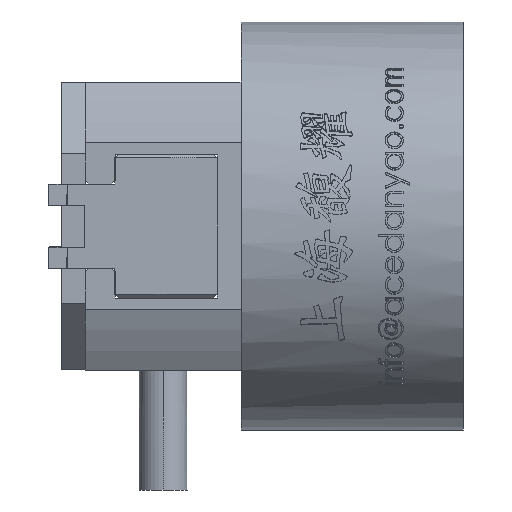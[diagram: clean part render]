
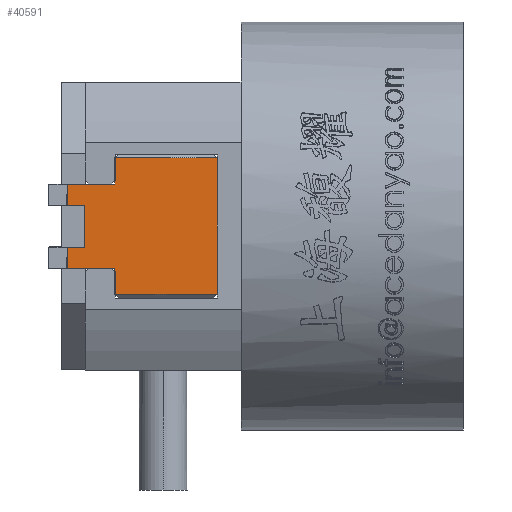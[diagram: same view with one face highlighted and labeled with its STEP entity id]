
A CAD part, left-side view. The second image highlights one B-rep face of the part: STEP entity #40591.
In plain terms, the highlighted planar face has unit normal (-1, 0, 0) as drawn and (1, 0, 0) by its records, which use the part's own axes.
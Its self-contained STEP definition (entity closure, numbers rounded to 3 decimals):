
#395 = EDGE_CURVE ( 'NONE', #33320, #44024, #38214, .T. ) ;
#1137 = CARTESIAN_POINT ( 'NONE',  ( 21.2, 8.5, -3.5 ) ) ;
#2248 = CARTESIAN_POINT ( 'NONE',  ( 21.2, 8.5, 6. ) ) ;
#2727 = CARTESIAN_POINT ( 'NONE',  ( 21.2, 12.5, 1.75 ) ) ;
#3012 = DIRECTION ( 'NONE',  ( 0., -1., 0. ) ) ;
#3361 = DIRECTION ( 'NONE',  ( 0., 0., -1. ) ) ;
#5840 = CARTESIAN_POINT ( 'NONE',  ( 21.2, 12.5, 6. ) ) ;
#5999 = VECTOR ( 'NONE', #3012, 1000. ) ;
#6355 = EDGE_CURVE ( 'NONE', #38625, #10607, #73511, .T. ) ;
#6616 = DIRECTION ( 'NONE',  ( 0., 0., -1. ) ) ;
#8441 = CARTESIAN_POINT ( 'NONE',  ( 21.2, 12.5, -3.5 ) ) ;
#8472 = ORIENTED_EDGE ( 'NONE', *, *, #21978, .F. ) ;
#9037 = CARTESIAN_POINT ( 'NONE',  ( 21.2, 12.5, 5.7 ) ) ;
#9481 = VECTOR ( 'NONE', #53254, 1000. ) ;
#10284 = ORIENTED_EDGE ( 'NONE', *, *, #19060, .F. ) ;
#10607 = VERTEX_POINT ( 'NONE', #2727 ) ;
#11380 = CARTESIAN_POINT ( 'NONE',  ( 21.2, 8.5, -5.7 ) ) ;
#11589 = VECTOR ( 'NONE', #54369, 1000. ) ;
#13229 = CARTESIAN_POINT ( 'NONE',  ( 21.2, 0., -5.7 ) ) ;
#13233 = VECTOR ( 'NONE', #32243, 1000. ) ;
#14855 = LINE ( 'NONE', #8441, #5999 ) ;
#16013 = PLANE ( 'NONE',  #30426 ) ;
#16088 = ORIENTED_EDGE ( 'NONE', *, *, #19404, .F. ) ;
#17013 = ORIENTED_EDGE ( 'NONE', *, *, #17103, .F. ) ;
#17103 = EDGE_CURVE ( 'NONE', #44024, #27982, #21072, .T. ) ;
#17209 = DIRECTION ( 'NONE',  ( 0., 0., 1. ) ) ;
#17227 = ORIENTED_EDGE ( 'NONE', *, *, #42967, .F. ) ;
#18053 = CARTESIAN_POINT ( 'NONE',  ( 21.2, 12.5, -1.75 ) ) ;
#18638 = VECTOR ( 'NONE', #20074, 1000. ) ;
#19060 = EDGE_CURVE ( 'NONE', #43450, #55303, #24534, .T. ) ;
#19294 = EDGE_CURVE ( 'NONE', #55303, #19652, #36084, .T. ) ;
#19404 = EDGE_CURVE ( 'NONE', #37838, #64824, #22766, .T. ) ;
#19652 = VERTEX_POINT ( 'NONE', #13229 ) ;
#20074 = DIRECTION ( 'NONE',  ( 0., 0., -1. ) ) ;
#20171 = CARTESIAN_POINT ( 'NONE',  ( 21.2, 8.5, 6. ) ) ;
#21005 = VECTOR ( 'NONE', #72792, 1000. ) ;
#21072 = LINE ( 'NONE', #20171, #34379 ) ;
#21339 = CARTESIAN_POINT ( 'NONE',  ( 21.2, 12.5, 3.5 ) ) ;
#21978 = EDGE_CURVE ( 'NONE', #54402, #10607, #54624, .T. ) ;
#22549 = FACE_OUTER_BOUND ( 'NONE', #72521, .T. ) ;
#22766 = LINE ( 'NONE', #51943, #51148 ) ;
#24534 = LINE ( 'NONE', #2248, #9481 ) ;
#26179 = CARTESIAN_POINT ( 'NONE',  ( 21.2, 8.5, 3.5 ) ) ;
#26257 = DIRECTION ( 'NONE',  ( 0., 0., -1. ) ) ;
#26532 = EDGE_CURVE ( 'NONE', #27982, #54402, #29056, .T. ) ;
#27019 = DIRECTION ( 'NONE',  ( 0., 1., 0. ) ) ;
#27454 = CARTESIAN_POINT ( 'NONE',  ( 21.2, 12.5, -5.7 ) ) ;
#27982 = VERTEX_POINT ( 'NONE', #26179 ) ;
#28906 = EDGE_CURVE ( 'NONE', #64824, #43450, #14855, .T. ) ;
#29056 = LINE ( 'NONE', #21339, #59221 ) ;
#30426 = AXIS2_PLACEMENT_3D ( 'NONE', #5840, #51158, #17209 ) ;
#31333 = EDGE_CURVE ( 'NONE', #37838, #33370, #73298, .T. ) ;
#32243 = DIRECTION ( 'NONE',  ( 0., 1., 0. ) ) ;
#33320 = VERTEX_POINT ( 'NONE', #37285 ) ;
#33370 = VERTEX_POINT ( 'NONE', #38266 ) ;
#34379 = VECTOR ( 'NONE', #3361, 1000. ) ;
#36084 = LINE ( 'NONE', #27454, #21005 ) ;
#37285 = CARTESIAN_POINT ( 'NONE',  ( 21.2, 0., 5.7 ) ) ;
#37561 = LINE ( 'NONE', #55761, #52630 ) ;
#37838 = VERTEX_POINT ( 'NONE', #18053 ) ;
#38214 = LINE ( 'NONE', #9037, #11589 ) ;
#38266 = CARTESIAN_POINT ( 'NONE',  ( 21.2, 11., -1.75 ) ) ;
#38625 = VERTEX_POINT ( 'NONE', #39252 ) ;
#39252 = CARTESIAN_POINT ( 'NONE',  ( 21.2, 11., 1.75 ) ) ;
#39582 = VECTOR ( 'NONE', #71626, 1000. ) ;
#39921 = ORIENTED_EDGE ( 'NONE', *, *, #26532, .F. ) ;
#40591 = ADVANCED_FACE ( 'NONE', ( #22549 ), #16013, .F. ) ;
#40638 = ORIENTED_EDGE ( 'NONE', *, *, #19294, .F. ) ;
#42900 = CARTESIAN_POINT ( 'NONE',  ( 21.2, 14., 1.75 ) ) ;
#42967 = EDGE_CURVE ( 'NONE', #38625, #33370, #37561, .T. ) ;
#43450 = VERTEX_POINT ( 'NONE', #1137 ) ;
#44024 = VERTEX_POINT ( 'NONE', #47117 ) ;
#47024 = LINE ( 'NONE', #59244, #18638 ) ;
#47117 = CARTESIAN_POINT ( 'NONE',  ( 21.2, 8.5, 5.7 ) ) ;
#48591 = CARTESIAN_POINT ( 'NONE',  ( 21.2, 12.5, 6. ) ) ;
#49831 = ORIENTED_EDGE ( 'NONE', *, *, #28906, .F. ) ;
#50954 = CARTESIAN_POINT ( 'NONE',  ( 21.2, 14., -1.75 ) ) ;
#51148 = VECTOR ( 'NONE', #6616, 1000. ) ;
#51158 = DIRECTION ( 'NONE',  ( -1., 0., 0. ) ) ;
#51943 = CARTESIAN_POINT ( 'NONE',  ( 21.2, 12.5, 6. ) ) ;
#52630 = VECTOR ( 'NONE', #26257, 1000. ) ;
#53254 = DIRECTION ( 'NONE',  ( 0., 0., -1. ) ) ;
#53442 = CARTESIAN_POINT ( 'NONE',  ( 21.2, 12.5, 3.5 ) ) ;
#54369 = DIRECTION ( 'NONE',  ( 0., 1., 0. ) ) ;
#54402 = VERTEX_POINT ( 'NONE', #53442 ) ;
#54481 = CARTESIAN_POINT ( 'NONE',  ( 21.2, 12.5, -3.5 ) ) ;
#54624 = LINE ( 'NONE', #48591, #39582 ) ;
#55091 = EDGE_CURVE ( 'NONE', #33320, #19652, #47024, .T. ) ;
#55303 = VERTEX_POINT ( 'NONE', #11380 ) ;
#55761 = CARTESIAN_POINT ( 'NONE',  ( 21.2, 11., 6. ) ) ;
#56666 = DIRECTION ( 'NONE',  ( 0., -1., 0. ) ) ;
#59221 = VECTOR ( 'NONE', #27019, 1000. ) ;
#59244 = CARTESIAN_POINT ( 'NONE',  ( 21.2, 0., 6. ) ) ;
#61799 = ORIENTED_EDGE ( 'NONE', *, *, #6355, .T. ) ;
#64824 = VERTEX_POINT ( 'NONE', #54481 ) ;
#66748 = ORIENTED_EDGE ( 'NONE', *, *, #31333, .T. ) ;
#67158 = ORIENTED_EDGE ( 'NONE', *, *, #395, .F. ) ;
#68803 = ORIENTED_EDGE ( 'NONE', *, *, #55091, .T. ) ;
#71524 = VECTOR ( 'NONE', #56666, 1000. ) ;
#71626 = DIRECTION ( 'NONE',  ( 0., 0., -1. ) ) ;
#72521 = EDGE_LOOP ( 'NONE', ( #67158, #68803, #40638, #10284, #49831, #16088, #66748, #17227, #61799, #8472, #39921, #17013 ) ) ;
#72792 = DIRECTION ( 'NONE',  ( 0., -1., 0. ) ) ;
#73298 = LINE ( 'NONE', #50954, #71524 ) ;
#73511 = LINE ( 'NONE', #42900, #13233 ) ;
